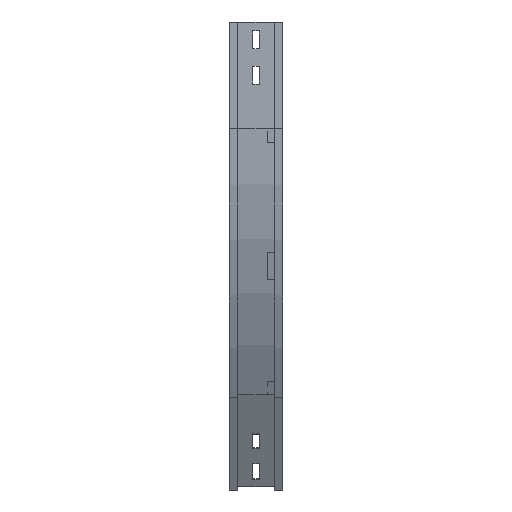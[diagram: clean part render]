
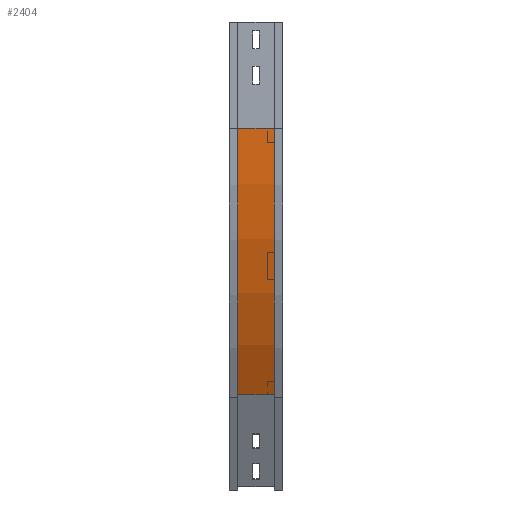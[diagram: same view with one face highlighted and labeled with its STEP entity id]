
A CAD part, left-side view. The second image highlights one B-rep face of the part: STEP entity #2404.
In plain terms, the highlighted cylindrical face has radius 750 mm (diameter 1500 mm), a partial arc.
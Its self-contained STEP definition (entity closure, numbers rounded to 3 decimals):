
#15 = LINE ( 'NONE', #1088, #532 ) ;
#111 = ORIENTED_EDGE ( 'NONE', *, *, #2610, .F. ) ;
#260 = DIRECTION ( 'NONE',  ( 0., -1., 0. ) ) ;
#348 = DIRECTION ( 'NONE',  ( 0., -1., 0. ) ) ;
#532 = VECTOR ( 'NONE', #260, 1000. ) ;
#591 = ORIENTED_EDGE ( 'NONE', *, *, #678, .T. ) ;
#623 = VERTEX_POINT ( 'NONE', #3130 ) ;
#639 = CIRCLE ( 'NONE', #1531, 750. ) ;
#678 = EDGE_CURVE ( 'NONE', #2739, #3394, #15, .T. ) ;
#714 = LINE ( 'NONE', #2848, #1804 ) ;
#754 = CIRCLE ( 'NONE', #1858, 750. ) ;
#859 = DIRECTION ( 'NONE',  ( -1., 0., 0. ) ) ;
#1088 = CARTESIAN_POINT ( 'NONE',  ( 109.481, 12., -525. ) ) ;
#1124 = CARTESIAN_POINT ( 'NONE',  ( 759., 0., -150. ) ) ;
#1215 = CARTESIAN_POINT ( 'NONE',  ( 759., 12., -150. ) ) ;
#1383 = CARTESIAN_POINT ( 'NONE',  ( 759., 63., -150. ) ) ;
#1400 = DIRECTION ( 'NONE',  ( 0., -1., 0. ) ) ;
#1476 = ORIENTED_EDGE ( 'NONE', *, *, #2410, .T. ) ;
#1486 = DIRECTION ( 'NONE',  ( -1., 0., 0. ) ) ;
#1531 = AXIS2_PLACEMENT_3D ( 'NONE', #1215, #2247, #1486 ) ;
#1804 = VECTOR ( 'NONE', #2599, 1000. ) ;
#1858 = AXIS2_PLACEMENT_3D ( 'NONE', #1383, #1400, #859 ) ;
#1971 = CARTESIAN_POINT ( 'NONE',  ( 109.481, 12., -525. ) ) ;
#2247 = DIRECTION ( 'NONE',  ( 0., -1., 0. ) ) ;
#2383 = CYLINDRICAL_SURFACE ( 'NONE', #3215, 750. ) ;
#2404 = ADVANCED_FACE ( 'NONE', ( #3247 ), #2383, .T. ) ;
#2410 = EDGE_CURVE ( 'NONE', #623, #2739, #754, .T. ) ;
#2417 = CARTESIAN_POINT ( 'NONE',  ( 9., 12., -150. ) ) ;
#2599 = DIRECTION ( 'NONE',  ( 0., -1., 0. ) ) ;
#2610 = EDGE_CURVE ( 'NONE', #2756, #3394, #639, .T. ) ;
#2625 = CARTESIAN_POINT ( 'NONE',  ( 109.481, 63., -525. ) ) ;
#2739 = VERTEX_POINT ( 'NONE', #2625 ) ;
#2756 = VERTEX_POINT ( 'NONE', #2417 ) ;
#2848 = CARTESIAN_POINT ( 'NONE',  ( 9., 12., -150. ) ) ;
#2968 = ORIENTED_EDGE ( 'NONE', *, *, #3062, .F. ) ;
#3016 = EDGE_LOOP ( 'NONE', ( #111, #2968, #1476, #591 ) ) ;
#3062 = EDGE_CURVE ( 'NONE', #623, #2756, #714, .T. ) ;
#3130 = CARTESIAN_POINT ( 'NONE',  ( 9., 63., -150. ) ) ;
#3215 = AXIS2_PLACEMENT_3D ( 'NONE', #1124, #348, #3228 ) ;
#3228 = DIRECTION ( 'NONE',  ( 0., 0., -1. ) ) ;
#3247 = FACE_OUTER_BOUND ( 'NONE', #3016, .T. ) ;
#3394 = VERTEX_POINT ( 'NONE', #1971 ) ;
